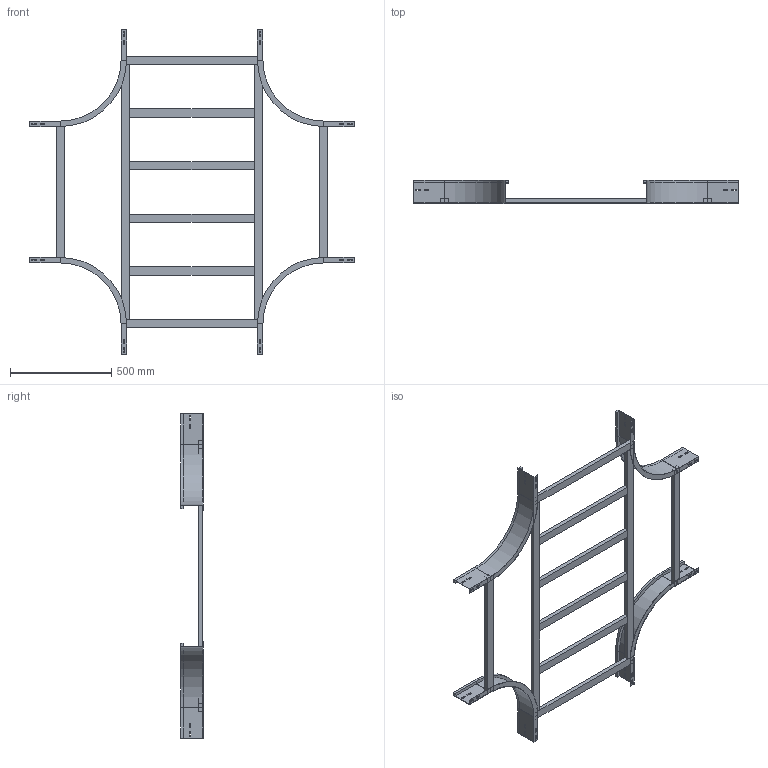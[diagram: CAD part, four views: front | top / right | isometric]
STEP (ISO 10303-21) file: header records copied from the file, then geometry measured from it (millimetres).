
FILE_DESCRIPTION (( 'STEP AP214' ), '1' );
FILE_NAME ('A2_17B3J700.step', '2025-02-21T15:56:54', ( '' ), ( '' ), 'SwSTEP 2.0', 'SolidWorks 2023', '' );
FILE_SCHEMA (( 'AUTOMOTIVE_DESIGN' ));
Length unit declared in the file: millimetre
Products named in the file (5): A2_LONGH.INTERNO 90°_H112.5_R300; A2_TRAVERSINO_LONG._R300+700; A2_17B3J700; TRAVERSINO_INTERMEDIO_R300+700; TRAVERSINO_700
Assembly tree (14 placements, depth 2):
  A2_17B3J700
    A2_LONGH.INTERNO 90°_H112.5_R300  x4
    TRAVERSINO_700  x4
    A2_TRAVERSINO_LONG._R300+700  x2
    TRAVERSINO_INTERMEDIO_R300+700  x4
Bounding box: 1600 x 112.5 x 1600 mm (x, y, z)
Volume: 7736881 mm3; surface area: 1922061.5 mm2
Topology: 14 solids, 14 shells, 292 faces, 728 edges, 464 vertices
Faces by surface type: plane 276, cylinder 16
Entity records: 2458 total; most frequent: CARTESIAN_POINT 401, DIRECTION 382, ORIENTED_EDGE 376, EDGE_CURVE 188, VECTOR 180, LINE 180, VERTEX_POINT 120, AXIS2_PLACEMENT_3D 101
